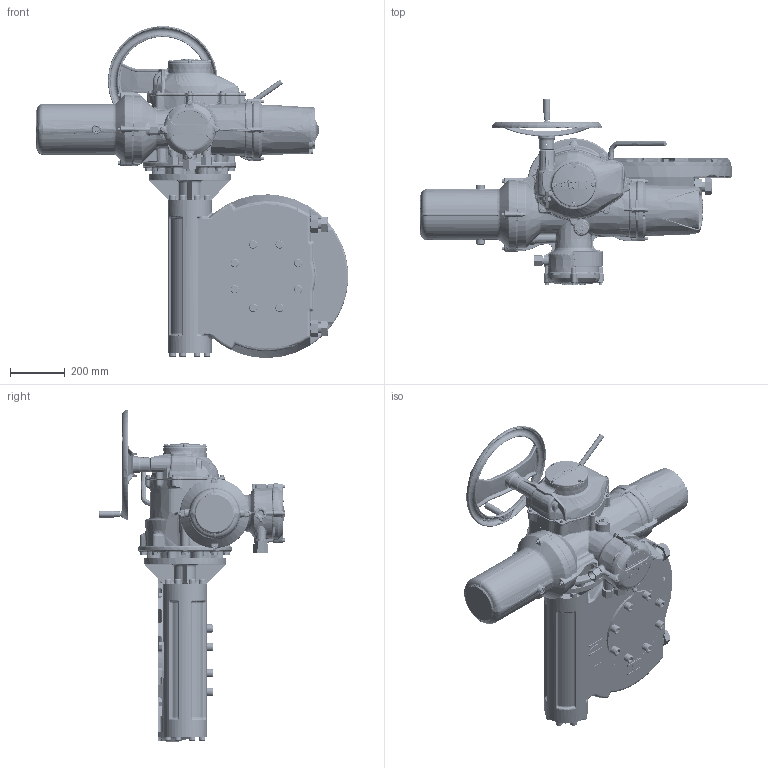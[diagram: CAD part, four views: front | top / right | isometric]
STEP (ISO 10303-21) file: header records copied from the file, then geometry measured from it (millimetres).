
FILE_DESCRIPTION( ( 'Unknown' ), '1' );
FILE_NAME( 'S:/Release/InstallationDrgs-IQmk3/Datasheets for Bishams release program/IQMK3 DATASHEETS/IQ5, IW7 - 11 & 13/II5SHWIW9STD-1.stp', 'Unknown', ( 'Unknown' ), ( 'Unknown' ), 'PSStep 17.0.49', 'Unknown', ' ' );
FILE_SCHEMA( ( 'AUTOMOTIVE_DESIGN { 1 0 10303 214 1 1 1 1 }' ) );
Length unit declared in the file: millimetre
Products named in the file (10): II5-05-std
Bounding box: 1138.25 x 680.05 x 1209.48 mm (x, y, z)
Volume: 1930245.9 mm3; surface area: 3294360.6 mm2
Topology: 79 solids, 82 shells, 8461 faces, 20673 edges, 12244 vertices
Faces by surface type: bspline 2818, plane 2348, cylinder 1317, torus 856, cone 683, sphere 272, extrusion 128, revolution 21, offset 18
Full cylindrical faces by diameter (mm): 1.152 x1, 3 x10, 3.5 x1, 6 x5, 6.45 x4, 6.47 x4, 6.5 x1, 6.647 x8, 7 x4, 7.6 x4, 8 x21, 8.1 x1, 8.2 x1, 8.3 x2, 8.376 x1, 8.5 x4, 9.7 x1, 10 x1, 12 x2, 12.1 x1, 13 x12, 13.25 x11, 13.548 x1, 13.55 x1, 13.835 x16, 16 x17, 16.5 x16, 16.75 x1, 17 x8, 18 x5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
Entity records: 803383 total; most frequent: CARTESIAN_POINT 564664, ORIENTED_EDGE 38798, DIRECTION 30390, EDGE_CURVE 19399, AXIS2_PLACEMENT_3D 12654, VERTEX_POINT 11910, EDGE_LOOP 9379, FACE_OUTER_BOUND 8829
